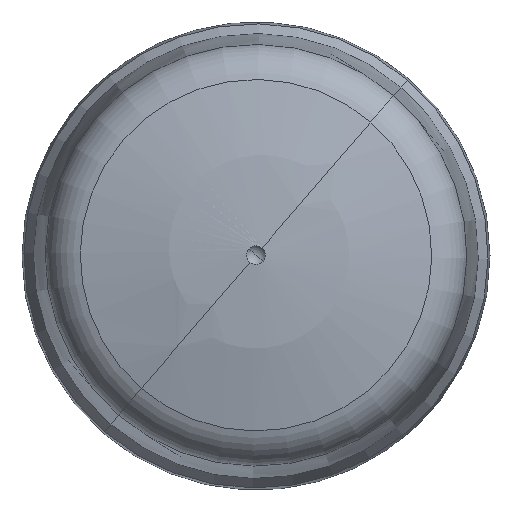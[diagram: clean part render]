
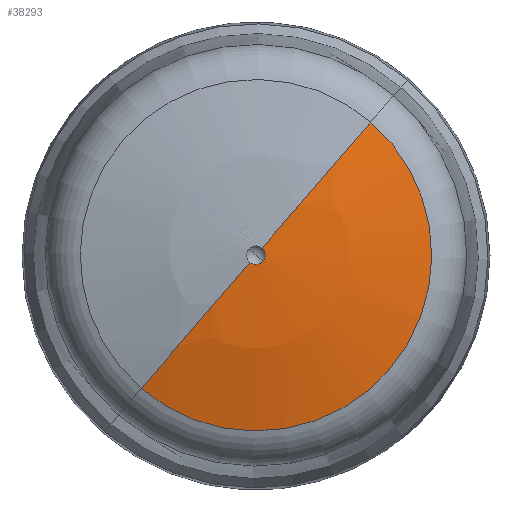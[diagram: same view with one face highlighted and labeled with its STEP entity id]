
A CAD part, top view. The second image highlights one B-rep face of the part: STEP entity #38293.
In plain terms, the highlighted spherical face has radius 150 mm.
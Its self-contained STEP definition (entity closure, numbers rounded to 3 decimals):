
#12554=CARTESIAN_POINT('',(0.,0.,84.723));
#12555=DIRECTION('',(0.,0.,1.));
#12556=DIRECTION('',(-0.652,-0.758,0.));
#12557=AXIS2_PLACEMENT_3D('',#12554,#12555,#12556);
#12559=CARTESIAN_POINT('',(0.,0.,89.487));
#12560=DIRECTION('',(0.,0.,1.));
#12561=DIRECTION('',(0.758,-0.652,0.));
#12562=AXIS2_PLACEMENT_3D('',#12559,#12560,#12561);
#12564=CARTESIAN_POINT('',(0.,0.,-60.5));
#12565=DIRECTION('',(-0.758,0.652,0.));
#12566=DIRECTION('',(0.009,0.01,1.));
#12567=AXIS2_PLACEMENT_3D('',#12564,#12565,#12566);
#12569=CARTESIAN_POINT('',(0.,0.,-60.5));
#12570=DIRECTION('',(-0.758,0.652,0.));
#12571=DIRECTION('',(-0.163,-0.19,0.968));
#12572=AXIS2_PLACEMENT_3D('',#12569,#12570,#12571);
#12574=CARTESIAN_POINT('',(0.,0.,89.487));
#12575=DIRECTION('',(0.,0.,1.));
#12576=DIRECTION('',(-0.652,-0.758,0.));
#12577=AXIS2_PLACEMENT_3D('',#12574,#12575,#12576);
#21764=CARTESIAN_POINT('',(24.496,28.467,84.723));
#21765=VERTEX_POINT('',#21764);
#21766=CARTESIAN_POINT('',(-24.496,-28.467,
84.723));
#21767=VERTEX_POINT('',#21766);
#21768=CARTESIAN_POINT('',(1.508,-1.298,
89.487));
#21769=CARTESIAN_POINT('',(1.298,1.508,89.487));
#21770=VERTEX_POINT('',#21768);
#21771=VERTEX_POINT('',#21769);
#21772=CARTESIAN_POINT('',(-1.298,-1.508,
89.487));
#21773=VERTEX_POINT('',#21772);
#38277=CARTESIAN_POINT('',(0.,0.,-60.5));
#38278=DIRECTION('',(0.,0.,-1.));
#38279=DIRECTION('',(-0.652,-0.758,0.));
#38280=AXIS2_PLACEMENT_3D('',#38277,#38278,#38279);
#38281=SPHERICAL_SURFACE('',#38280,150.);
#38283=ORIENTED_EDGE('',*,*,#38282,.T.);
#38285=ORIENTED_EDGE('',*,*,#38284,.T.);
#38286=ORIENTED_EDGE('',*,*,#38272,.F.);
#38288=ORIENTED_EDGE('',*,*,#38287,.T.);
#38290=ORIENTED_EDGE('',*,*,#38289,.T.);
#38291=EDGE_LOOP('',(#38283,#38285,#38286,#38288,#38290));
#38292=FACE_OUTER_BOUND('',#38291,.F.);
#38293=ADVANCED_FACE('',(#38292),#38281,.T.);
#12558=CIRCLE('',#12557,37.555);
#12563=CIRCLE('',#12562,1.99);
#12568=CIRCLE('',#12567,150.);
#12573=CIRCLE('',#12572,150.);
#12578=CIRCLE('',#12577,1.99);
#38272=EDGE_CURVE('',#21767,#21765,#12558,.T.);
#38282=EDGE_CURVE('',#21770,#21771,#12563,.T.);
#38284=EDGE_CURVE('',#21771,#21765,#12568,.T.);
#38287=EDGE_CURVE('',#21767,#21773,#12573,.T.);
#38289=EDGE_CURVE('',#21773,#21770,#12578,.T.);
